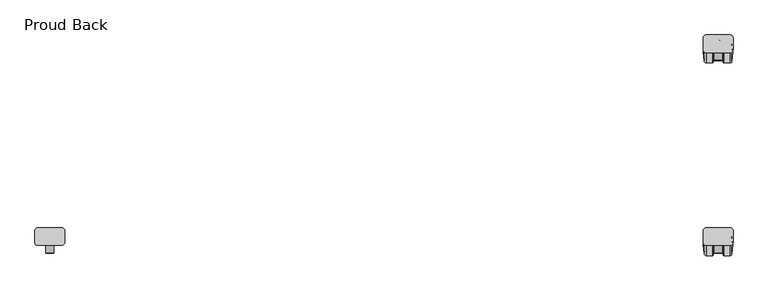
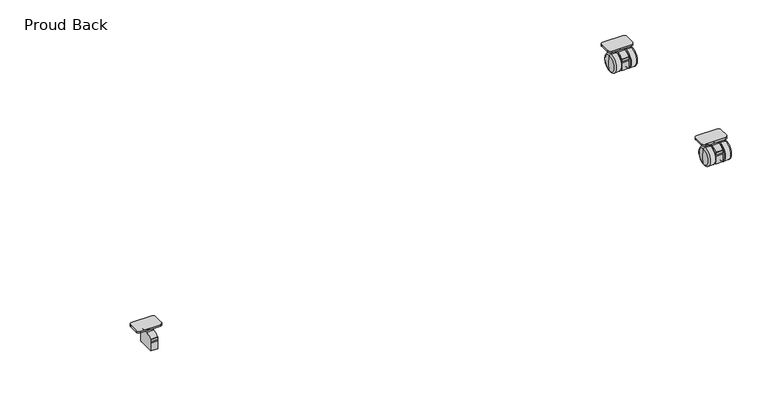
"""IFC4 building model written with IfcOpenShell, lengths in millimetres: furniture geometry, Haworth_BeHold_Modular_MobileCredenza : Proud Back."""

from ifc_helpers import new_model, si_unit, point, frame, frame_2d, origin, place, context, project, spatial, polyline, circle_curve, ellipse_curve, trimmed, segment, composite_curve, outline, extrude, source, transform, mapped, element, save
from ifc_brep_helpers import plane_surface, cylinder_surface, revolved_surface, advanced_brep


def proud_back_0982a6b6(model_context):
    return source(origin(), model_context, "Body", "SolidModel", [
        extrude(outline(composite_curve([segment(trimmed(circle_curve(frame_2d((432.996701, -437.9821808)), 5.55625), [point((432.996701, -432.4259308))], [point((438.552951, -437.9821808))], False, "CARTESIAN"), True, "CONTINUOUS"), segment(polyline([(438.552951, -437.9821808), (438.552951, -457.3264717)]), True, "CONTINUOUS"), segment(trimmed(circle_curve(frame_2d((432.9541908, -457.3264717)), 5.5987602), [point((438.552951, -457.3264717))], [point((432.9541908, -462.9252319))], False, "CARTESIAN"), True, "CONTINUOUS"), segment(polyline([(432.9541908, -462.9252319), (393.1088256, -462.9252319)]), True, "CONTINUOUS"), segment(trimmed(circle_curve(frame_2d((393.1088256, -457.3689819)), 5.55625), [point((393.1088256, -462.9252319))], [point((387.5525756, -457.3689819))], False, "CARTESIAN"), True, "CONTINUOUS"), segment(polyline([(387.5525756, -457.3689819), (387.5525756, -437.9821808)]), True, "CONTINUOUS"), segment(trimmed(circle_curve(frame_2d((393.1088256, -437.9821808)), 5.55625), [point((387.5525756, -437.9821808))], [point((393.1088256, -432.4259308))], False, "CARTESIAN"), True, "CONTINUOUS"), segment(polyline([(393.1088256, -432.4259308), (432.996701, -432.4259308)]), True, "CONTINUOUS")], self_intersect=False)), frame((0.0, 0.0, 41.1500016), z_axis=(0.0, 0.0, 1.0), x_axis=(1.0, 0.0, 0.0)), (0.0, 0.0, 1.0), 3.2999984),
        extrude(outline(composite_curve([segment(trimmed(circle_curve(frame_2d((-444.8174225, 10.0187513)), 3.96875), [point((-440.8486725, 10.0187513))], [point((-444.8174225, 6.0500013))], False, "CARTESIAN"), True, "CONTINUOUS"), segment(polyline([(-444.8174225, 6.0500013), (-476.4755676, 6.0500013), (-476.4755676, 22.3915745)]), True, "CONTINUOUS"), segment(trimmed(circle_curve(frame_2d((-435.1272413, 22.3915745)), 41.3483263), [point((-476.4755676, 22.3915745))], [point((-476.357618, 25.5124927))], False, "CARTESIAN"), True, "CONTINUOUS"), segment(polyline([(-476.357618, 25.5124927), (-476.0516605, 29.5544899)]), True, "CONTINUOUS"), segment(trimmed(circle_curve(frame_2d((-474.2358868, 29.4170456)), 1.8209681), [point((-476.0516605, 29.5544899))], [point((-475.6031667, 30.6197387))], False, "CARTESIAN"), True, "CONTINUOUS"), segment(trimmed(circle_curve(frame_2d((-461.8252991, 18.5003868)), 18.3496138), [point((-475.6031667, 30.6197387))], [point((-461.8252991, 36.8500006))], False, "CARTESIAN"), True, "CONTINUOUS"), segment(polyline([(-461.8252991, 36.8500006), (-455.7756683, 36.8500006), (-455.7756683, 32.8500017), (-440.8486725, 32.8500017), (-440.8486725, 10.0187513)]), True, "CONTINUOUS")], self_intersect=False)), frame((406.0537719, 0.0, 0.0), z_axis=(1.0, 0.0, 0.0), x_axis=(0.0, 1.0, 0.0)), (0.0, 0.0, 1.0), 13.9991455),
        advanced_brep(
        [(408.3792114, -447.675, 32.8500017), (417.727478, -447.675, 32.8500017), (413.0533447, -447.675, 32.8500017), (408.3792114, -447.675, 34.6500009), (417.727478, -447.675, 34.6500009), (406.829306, -447.675, 34.6500009), (419.2773834, -447.675, 34.6500009), (405.982846, -447.675, 38.6499997), (420.1238433, -447.675, 38.6499997), (408.5536193, -447.675, 38.6499997), (417.55307, -447.675, 38.6499997), (402.054016, -447.675, 41.1500016), (424.0526733, -447.675, 41.1500016), (413.0533447, -447.675, 41.1500016)],
        [
            (0, 1, circle_curve(frame((413.0533447, -447.675, 32.8500017), z_axis=(0.0, 0.0, -1.0), x_axis=(1.0, 0.0, 0.0)), 4.6741333)),
            (1, 2),
            (2, 0),
            (1, 0, circle_curve(frame((413.0533447, -447.675, 32.8500017), z_axis=(0.0, 0.0, -1.0), x_axis=(1.0, 0.0, 0.0)), 4.6741333)),
            (3, 4, circle_curve(frame((413.0533447, -447.675, 34.6500009), z_axis=(0.0, 0.0, -1.0), x_axis=(1.0, 0.0, 0.0)), 4.6741333)),
            (4, 1),
            (0, 3),
            (4, 3, circle_curve(frame((413.0533447, -447.675, 34.6500009), z_axis=(0.0, 0.0, -1.0), x_axis=(1.0, 0.0, 0.0)), 4.6741333)),
            (5, 6, circle_curve(frame((413.0533447, -447.675, 34.6500009), z_axis=(0.0, 0.0, -1.0), x_axis=(1.0, 0.0, 0.0)), 6.2240387)),
            (6, 4),
            (3, 5),
            (6, 5, circle_curve(frame((413.0533447, -447.675, 34.6500009), z_axis=(0.0, 0.0, -1.0), x_axis=(1.0, 0.0, 0.0)), 6.2240387)),
            (7, 8, circle_curve(frame((413.0533447, -447.675, 38.6499997), z_axis=(0.0, 0.0, -1.0), x_axis=(1.0, 0.0, 0.0)), 7.0704987)),
            (8, 6, circle_curve(frame((417.5549905, -447.675, 37.1040464), z_axis=(0.0, 1.0, 0.0), x_axis=(1.0, 0.0, 0.0)), 2.9981622)),
            (5, 7, circle_curve(frame((408.5516989, -447.675, 37.1040464), z_axis=(0.0, 1.0, 0.0), x_axis=(-1.0, 0.0, 0.0)), 2.9981622)),
            (8, 7, circle_curve(frame((413.0533447, -447.675, 38.6499997), z_axis=(0.0, 0.0, -1.0), x_axis=(1.0, 0.0, 0.0)), 7.0704987)),
            (9, 10, circle_curve(frame((413.0533447, -447.675, 38.6499997), z_axis=(0.0, 0.0, -1.0), x_axis=(1.0, 0.0, 0.0)), 4.4997253)),
            (10, 8),
            (7, 9),
            (10, 9, circle_curve(frame((413.0533447, -447.675, 38.6499997), z_axis=(0.0, 0.0, -1.0), x_axis=(1.0, 0.0, 0.0)), 4.4997253)),
            (11, 12, circle_curve(frame((413.0533447, -447.675, 41.1500016), z_axis=(0.0, 0.0, -1.0), x_axis=(1.0, 0.0, 0.0)), 10.9993286)),
            (12, 10),
            (9, 11),
            (12, 11, circle_curve(frame((413.0533447, -447.675, 41.1500016), z_axis=(0.0, 0.0, -1.0), x_axis=(1.0, 0.0, 0.0)), 10.9993286)),
            (13, 12),
            (11, 13),
        ],
        [
            plane_surface(frame((413.0533447, -447.675, 32.8500017), z_axis=(0.0, 0.0, -1.0), x_axis=(1.0, 0.0, 0.0))),
            cylinder_surface(frame((413.0533447, -447.675, 53.2629664), z_axis=(0.0, 0.0, 1.0), x_axis=(1.0, 0.0, 0.0)), 4.6741333),
            plane_surface(frame((413.0533447, -447.675, 34.6500009), z_axis=(0.0, 0.0, -1.0), x_axis=(1.0, 0.0, 0.0))),
            revolved_surface(trimmed(ellipse_curve(frame((417.5549905, -447.675, 37.1040464), z_axis=(0.0, -1.0, 0.0), x_axis=(1.0, 0.0, 0.0)), 2.9981622, 2.9981622), [point((419.2773834, -447.675, 34.6500009))], [point((420.1238433, -447.675, 38.6499997))], True, "CARTESIAN"), (413.0533447, -447.675, 53.2629664), (0.0, 0.0, 1.0)),
            plane_surface(frame((413.0533447, -447.675, 38.6499997), z_axis=(0.0, 0.0, 1.0), x_axis=(1.0, 0.0, 0.0))),
            revolved_surface(polyline([(417.55307, -447.675, 38.6499997), (424.0526733, -447.675, 41.1500016)]), (413.0533447, -447.675, 53.2629664), (0.0, 0.0, 1.0)),
            plane_surface(frame((413.0533447, -447.675, 41.1500016), z_axis=(0.0, 0.0, 1.0), x_axis=(1.0, 0.0, 0.0))),
        ],
        [
            (0, [[1, 2, 3]]),
            (0, [[4, -3, -2]]),
            (1, [[5, 6, -1, 7]]),
            (1, [[8, -7, -4, -6]]),
            (2, [[9, 10, -5, 11]]),
            (2, [[12, -11, -8, -10]]),
            (3, [[13, 14, -9, 15]]),
            (3, [[16, -15, -12, -14]]),
            (4, [[17, 18, -13, 19]]),
            (4, [[20, -19, -16, -18]]),
            (5, [[21, 22, -17, 23]]),
            (5, [[24, -23, -20, -22]]),
            (6, [[25, -21, 26]]),
            (6, [[-26, -24, -25]]),
        ],
    ),
        advanced_brep(
        [(389.4536834, -461.8252991, 2.8741812), (389.4536834, -461.8252991, 34.1258208), (387.85372, -461.8252991, 18.500001), (392.9567552, -461.8252991, 1.5e-06), (392.9567552, -461.8252991, 37.0000005), (403.1620879, -461.8252991, 1.5e-06), (403.1620879, -461.8252991, 37.0000005), (404.3527129, -461.8252991, 1.1906265), (404.3527129, -461.8252991, 35.8093755), (404.3527129, -461.8252991, 11.3500014), (404.3527129, -461.8252991, 25.6500006), (407.8524993, -461.8252991, 11.3500014), (407.8524993, -461.8252991, 25.6500006), (407.8524993, -461.8252991, 13.0457396), (407.8524993, -461.8252991, 23.9542625), (418.2530273, -461.8252991, 13.0457396), (418.2530273, -461.8252991, 23.9542625), (418.2530273, -461.8252991, 11.3500014), (418.2530273, -461.8252991, 25.6500006), (421.7528137, -461.8252991, 11.3500014), (421.7528137, -461.8252991, 25.6500006), (421.7528137, -461.8252991, 1.1906265), (421.7528137, -461.8252991, 35.8093755), (422.9434387, -461.8252991, 1.5e-06), (422.9434387, -461.8252991, 37.0000005), (433.1298304, -461.8252991, 1.5e-06), (433.1298304, -461.8252991, 37.0000005), (436.657107, -461.8252991, 2.894786), (436.657107, -461.8252991, 34.105216), (438.2529693, -461.8252991, 18.500001)],
        [
            (0, 1, circle_curve(frame((389.4536834, -461.8252991, 18.500001), z_axis=(-1.0, 0.0, 0.0), x_axis=(0.0, 0.0, 1.0)), 15.6258198)),
            (1, 2, circle_curve(frame((471.033307, -461.8252991, 17.8778751), z_axis=(0.0, -1.0, 0.0), x_axis=(-1.0, 0.0, 0.0)), 83.1819135)),
            (2, 0, circle_curve(frame((471.033307, -461.8252991, 19.1221269), z_axis=(0.0, -1.0, 0.0), x_axis=(-1.0, 0.0, 0.0)), 83.1819135)),
            (1, 0, circle_curve(frame((389.4536834, -461.8252991, 18.500001), z_axis=(-1.0, 0.0, 0.0), x_axis=(0.0, 0.0, 1.0)), 15.6258198)),
            (3, 4, circle_curve(frame((392.9567552, -461.8252991, 18.500001), z_axis=(-1.0, 0.0, 0.0), x_axis=(0.0, 0.0, 1.0)), 18.4999995)),
            (4, 1, circle_curve(frame((392.9567552, -461.8252991, 33.4281255), z_axis=(0.0, -1.0, 0.0), x_axis=(1.0, 0.0, 0.0)), 3.571875)),
            (0, 3, circle_curve(frame((392.9567552, -461.8252991, 3.5718765), z_axis=(0.0, -1.0, 0.0), x_axis=(1.0, 0.0, 0.0)), 3.571875)),
            (4, 3, circle_curve(frame((392.9567552, -461.8252991, 18.500001), z_axis=(-1.0, 0.0, 0.0), x_axis=(0.0, 0.0, 1.0)), 18.4999995)),
            (5, 6, circle_curve(frame((403.1620879, -461.8252991, 18.500001), z_axis=(-1.0, 0.0, 0.0), x_axis=(0.0, 0.0, 1.0)), 18.4999995)),
            (6, 4),
            (3, 5),
            (6, 5, circle_curve(frame((403.1620879, -461.8252991, 18.500001), z_axis=(-1.0, 0.0, 0.0), x_axis=(0.0, 0.0, 1.0)), 18.4999995)),
            (7, 8, circle_curve(frame((404.3527129, -461.8252991, 18.500001), z_axis=(-1.0, 0.0, 0.0), x_axis=(0.0, 0.0, 1.0)), 17.3093745)),
            (8, 6, circle_curve(frame((403.1620879, -461.8252991, 35.8093755), z_axis=(0.0, -1.0, 0.0), x_axis=(1.0, 0.0, 0.0)), 1.190625)),
            (5, 7, circle_curve(frame((403.1620879, -461.8252991, 1.1906265), z_axis=(0.0, -1.0, 0.0), x_axis=(1.0, 0.0, 0.0)), 1.190625)),
            (8, 7, circle_curve(frame((404.3527129, -461.8252991, 18.500001), z_axis=(-1.0, 0.0, 0.0), x_axis=(0.0, 0.0, 1.0)), 17.3093745)),
            (9, 10, circle_curve(frame((404.3527129, -461.8252991, 18.500001), z_axis=(-1.0, 0.0, 0.0), x_axis=(0.0, 0.0, 1.0)), 7.1499996)),
            (10, 8),
            (7, 9),
            (10, 9, circle_curve(frame((404.3527129, -461.8252991, 18.500001), z_axis=(-1.0, 0.0, 0.0), x_axis=(0.0, 0.0, 1.0)), 7.1499996)),
            (11, 12, circle_curve(frame((407.8524993, -461.8252991, 18.500001), z_axis=(-1.0, 0.0, 0.0), x_axis=(0.0, 0.0, 1.0)), 7.1499996)),
            (12, 10),
            (9, 11),
            (12, 11, circle_curve(frame((407.8524993, -461.8252991, 18.500001), z_axis=(-1.0, 0.0, 0.0), x_axis=(0.0, 0.0, 1.0)), 7.1499996)),
            (13, 14, circle_curve(frame((407.8524993, -461.8252991, 18.500001), z_axis=(-1.0, 0.0, 0.0), x_axis=(0.0, 0.0, 1.0)), 5.4542615)),
            (14, 12),
            (11, 13),
            (14, 13, circle_curve(frame((407.8524993, -461.8252991, 18.500001), z_axis=(-1.0, 0.0, 0.0), x_axis=(0.0, 0.0, 1.0)), 5.4542615)),
            (15, 16, circle_curve(frame((418.2530273, -461.8252991, 18.500001), z_axis=(-1.0, 0.0, 0.0), x_axis=(0.0, 0.0, 1.0)), 5.4542615)),
            (16, 14),
            (13, 15),
            (16, 15, circle_curve(frame((418.2530273, -461.8252991, 18.500001), z_axis=(-1.0, 0.0, 0.0), x_axis=(0.0, 0.0, 1.0)), 5.4542615)),
            (17, 18, circle_curve(frame((418.2530273, -461.8252991, 18.500001), z_axis=(-1.0, 0.0, 0.0), x_axis=(0.0, 0.0, 1.0)), 7.1499996)),
            (18, 16),
            (15, 17),
            (18, 17, circle_curve(frame((418.2530273, -461.8252991, 18.500001), z_axis=(-1.0, 0.0, 0.0), x_axis=(0.0, 0.0, 1.0)), 7.1499996)),
            (19, 20, circle_curve(frame((421.7528137, -461.8252991, 18.500001), z_axis=(-1.0, 0.0, 0.0), x_axis=(0.0, 0.0, 1.0)), 7.1499996)),
            (20, 18),
            (17, 19),
            (20, 19, circle_curve(frame((421.7528137, -461.8252991, 18.500001), z_axis=(-1.0, 0.0, 0.0), x_axis=(0.0, 0.0, 1.0)), 7.1499996)),
            (21, 22, circle_curve(frame((421.7528137, -461.8252991, 18.500001), z_axis=(-1.0, 0.0, 0.0), x_axis=(0.0, 0.0, 1.0)), 17.3093745)),
            (22, 20),
            (19, 21),
            (22, 21, circle_curve(frame((421.7528137, -461.8252991, 18.500001), z_axis=(-1.0, 0.0, 0.0), x_axis=(0.0, 0.0, 1.0)), 17.3093745)),
            (23, 24, circle_curve(frame((422.9434387, -461.8252991, 18.500001), z_axis=(-1.0, 0.0, 0.0), x_axis=(0.0, 0.0, 1.0)), 18.4999995)),
            (24, 22, circle_curve(frame((422.9434387, -461.8252991, 35.8093755), z_axis=(0.0, -1.0, 0.0), x_axis=(1.0, 0.0, 0.0)), 1.190625)),
            (21, 23, circle_curve(frame((422.9434387, -461.8252991, 1.1906265), z_axis=(0.0, -1.0, 0.0), x_axis=(1.0, 0.0, 0.0)), 1.190625)),
            (24, 23, circle_curve(frame((422.9434387, -461.8252991, 18.500001), z_axis=(-1.0, 0.0, 0.0), x_axis=(0.0, 0.0, 1.0)), 18.4999995)),
            (25, 26, circle_curve(frame((433.1298304, -461.8252991, 18.500001), z_axis=(-1.0, 0.0, 0.0), x_axis=(0.0, 0.0, 1.0)), 18.4999995)),
            (26, 24),
            (23, 25),
            (26, 25, circle_curve(frame((433.1298304, -461.8252991, 18.500001), z_axis=(-1.0, 0.0, 0.0), x_axis=(0.0, 0.0, 1.0)), 18.4999995)),
            (27, 28, circle_curve(frame((436.657107, -461.8252991, 18.500001), z_axis=(-1.0, 0.0, 0.0), x_axis=(0.0, 0.0, 1.0)), 15.605215)),
            (28, 26, circle_curve(frame((433.1298304, -461.8252991, 33.4036261), z_axis=(0.0, -1.0, 0.0), x_axis=(1.0, 0.0, 0.0)), 3.5963744)),
            (25, 27, circle_curve(frame((433.1298304, -461.8252991, 3.5963759), z_axis=(0.0, -1.0, 0.0), x_axis=(1.0, 0.0, 0.0)), 3.5963744)),
            (28, 27, circle_curve(frame((436.657107, -461.8252991, 18.500001), z_axis=(-1.0, 0.0, 0.0), x_axis=(0.0, 0.0, 1.0)), 15.605215)),
            (29, 28, circle_curve(frame((355.0733823, -461.8252991, 17.8778751), z_axis=(0.0, -1.0, 0.0), x_axis=(1.0, 0.0, 0.0)), 83.1819135)),
            (27, 29, circle_curve(frame((355.0733823, -461.8252991, 19.1221269), z_axis=(0.0, -1.0, 0.0), x_axis=(1.0, 0.0, 0.0)), 83.1819135)),
        ],
        [
            revolved_surface(trimmed(ellipse_curve(frame((471.033307, -461.8252991, 17.8778751), z_axis=(0.0, 1.0, 0.0), x_axis=(-1.0, 0.0, 0.0)), 83.1819135, 83.1819135), [point((387.85372, -461.8252991, 18.500001))], [point((389.4536834, -461.8252991, 34.1258208))], True, "CARTESIAN"), (364.5419293, -461.8252991, 18.500001), (1.0, 0.0, 0.0)),
            revolved_surface(trimmed(ellipse_curve(frame((392.9567552, -461.8252991, 33.4281255), z_axis=(0.0, 1.0, 0.0), x_axis=(1.0, 0.0, 0.0)), 3.571875, 3.571875), [point((389.4536834, -461.8252991, 34.1258208))], [point((392.9567552, -461.8252991, 37.0000005))], True, "CARTESIAN"), (364.5419293, -461.8252991, 18.500001), (1.0, 0.0, 0.0)),
            cylinder_surface(frame((364.5419293, -461.8252991, 18.500001), z_axis=(1.0, 0.0, 0.0), x_axis=(0.0, 0.0, 1.0)), 18.4999995),
            revolved_surface(trimmed(ellipse_curve(frame((403.1620879, -461.8252991, 35.8093755), z_axis=(0.0, 1.0, 0.0), x_axis=(1.0, 0.0, 0.0)), 1.190625, 1.190625), [point((403.1620879, -461.8252991, 37.0000005))], [point((404.3527129, -461.8252991, 35.8093755))], True, "CARTESIAN"), (364.5419293, -461.8252991, 18.500001), (1.0, 0.0, 0.0)),
            plane_surface(frame((404.3527129, -461.8252991, 18.500001), z_axis=(1.0, 0.0, 0.0), x_axis=(0.0, 0.0, 1.0))),
            cylinder_surface(frame((364.5419293, -461.8252991, 18.500001), z_axis=(1.0, 0.0, 0.0), x_axis=(0.0, 0.0, 1.0)), 7.1499996),
            plane_surface(frame((407.8524993, -461.8252991, 18.500001), z_axis=(1.0, 0.0, 0.0), x_axis=(0.0, 0.0, 1.0))),
            cylinder_surface(frame((364.5419293, -461.8252991, 18.500001), z_axis=(1.0, 0.0, 0.0), x_axis=(0.0, 0.0, 1.0)), 5.4542615),
            plane_surface(frame((418.2530273, -461.8252991, 18.500001), z_axis=(-1.0, 0.0, 0.0), x_axis=(0.0, 0.0, 1.0))),
            plane_surface(frame((421.7528137, -461.8252991, 18.500001), z_axis=(-1.0, 0.0, 0.0), x_axis=(0.0, 0.0, 1.0))),
            revolved_surface(trimmed(ellipse_curve(frame((422.9434387, -461.8252991, 35.8093755), z_axis=(0.0, 1.0, 0.0), x_axis=(1.0, 0.0, 0.0)), 1.190625, 1.190625), [point((421.7528137, -461.8252991, 35.8093755))], [point((422.9434387, -461.8252991, 37.0000005))], True, "CARTESIAN"), (364.5419293, -461.8252991, 18.500001), (1.0, 0.0, 0.0)),
            revolved_surface(trimmed(ellipse_curve(frame((433.1298304, -461.8252991, 33.4036261), z_axis=(0.0, 1.0, 0.0), x_axis=(1.0, 0.0, 0.0)), 3.5963744, 3.5963744), [point((433.1298304, -461.8252991, 37.0000005))], [point((436.657107, -461.8252991, 34.105216))], True, "CARTESIAN"), (364.5419293, -461.8252991, 18.500001), (1.0, 0.0, 0.0)),
            revolved_surface(trimmed(ellipse_curve(frame((355.0733823, -461.8252991, 17.8778751), z_axis=(0.0, 1.0, 0.0), x_axis=(1.0, 0.0, 0.0)), 83.1819135, 83.1819135), [point((436.657107, -461.8252991, 34.105216))], [point((438.2529693, -461.8252991, 18.500001))], True, "CARTESIAN"), (364.5419293, -461.8252991, 18.500001), (1.0, 0.0, 0.0)),
        ],
        [
            (0, [[1, 2, 3]]),
            (0, [[4, -3, -2]]),
            (1, [[5, 6, -1, 7]]),
            (1, [[8, -7, -4, -6]]),
            (2, [[9, 10, -5, 11]]),
            (2, [[12, -11, -8, -10]]),
            (3, [[13, 14, -9, 15]]),
            (3, [[16, -15, -12, -14]]),
            (4, [[17, 18, -13, 19]]),
            (4, [[20, -19, -16, -18]]),
            (5, [[21, 22, -17, 23]]),
            (5, [[24, -23, -20, -22]]),
            (6, [[25, 26, -21, 27]]),
            (6, [[28, -27, -24, -26]]),
            (7, [[29, 30, -25, 31]]),
            (7, [[32, -31, -28, -30]]),
            (8, [[33, 34, -29, 35]]),
            (8, [[36, -35, -32, -34]]),
            (5, [[37, 38, -33, 39]]),
            (5, [[40, -39, -36, -38]]),
            (9, [[41, 42, -37, 43]]),
            (9, [[44, -43, -40, -42]]),
            (10, [[45, 46, -41, 47]]),
            (10, [[48, -47, -44, -46]]),
            (2, [[49, 50, -45, 51]]),
            (2, [[52, -51, -48, -50]]),
            (11, [[53, 54, -49, 55]]),
            (11, [[56, -55, -52, -54]]),
            (12, [[57, -53, 58]]),
            (12, [[-58, -56, -57]]),
        ],
    ),
        extrude(outline(composite_curve([segment(trimmed(circle_curve(frame_2d((432.996701, -109.3696808)), 5.55625), [point((432.996701, -103.8134308))], [point((438.552951, -109.3696808))], False, "CARTESIAN"), True, "CONTINUOUS"), segment(polyline([(438.552951, -109.3696808), (438.552951, -128.7139717)]), True, "CONTINUOUS"), segment(trimmed(circle_curve(frame_2d((432.9541908, -128.7139717)), 5.5987602), [point((438.552951, -128.7139717))], [point((432.9541908, -134.3127319))], False, "CARTESIAN"), True, "CONTINUOUS"), segment(polyline([(432.9541908, -134.3127319), (393.1088256, -134.3127319)]), True, "CONTINUOUS"), segment(trimmed(circle_curve(frame_2d((393.1088256, -128.7564819)), 5.55625), [point((393.1088256, -134.3127319))], [point((387.5525756, -128.7564819))], False, "CARTESIAN"), True, "CONTINUOUS"), segment(polyline([(387.5525756, -128.7564819), (387.5525756, -109.3696808)]), True, "CONTINUOUS"), segment(trimmed(circle_curve(frame_2d((393.1088256, -109.3696808)), 5.55625), [point((387.5525756, -109.3696808))], [point((393.1088256, -103.8134308))], False, "CARTESIAN"), True, "CONTINUOUS"), segment(polyline([(393.1088256, -103.8134308), (432.996701, -103.8134308)]), True, "CONTINUOUS")], self_intersect=False)), frame((0.0, 0.0, 41.1500016), z_axis=(0.0, 0.0, 1.0), x_axis=(1.0, 0.0, 0.0)), (0.0, 0.0, 1.0), 3.2999984),
        extrude(outline(composite_curve([segment(trimmed(circle_curve(frame_2d((-116.2049225, 10.0187513)), 3.96875), [point((-112.2361725, 10.0187513))], [point((-116.2049225, 6.0500013))], False, "CARTESIAN"), True, "CONTINUOUS"), segment(polyline([(-116.2049225, 6.0500013), (-147.8630676, 6.0500013), (-147.8630676, 22.3915745)]), True, "CONTINUOUS"), segment(trimmed(circle_curve(frame_2d((-106.5147413, 22.3915745)), 41.3483263), [point((-147.8630676, 22.3915745))], [point((-147.745118, 25.5124927))], False, "CARTESIAN"), True, "CONTINUOUS"), segment(polyline([(-147.745118, 25.5124927), (-147.4391605, 29.5544899)]), True, "CONTINUOUS"), segment(trimmed(circle_curve(frame_2d((-145.6233868, 29.4170456)), 1.8209681), [point((-147.4391605, 29.5544899))], [point((-146.9906667, 30.6197387))], False, "CARTESIAN"), True, "CONTINUOUS"), segment(trimmed(circle_curve(frame_2d((-133.2127991, 18.5003868)), 18.3496138), [point((-146.9906667, 30.6197387))], [point((-133.2127991, 36.8500006))], False, "CARTESIAN"), True, "CONTINUOUS"), segment(polyline([(-133.2127991, 36.8500006), (-127.1631683, 36.8500006), (-127.1631683, 32.8500017), (-112.2361725, 32.8500017), (-112.2361725, 10.0187513)]), True, "CONTINUOUS")], self_intersect=False)), frame((406.0537719, 0.0, 0.0), z_axis=(1.0, 0.0, 0.0), x_axis=(0.0, 1.0, 0.0)), (0.0, 0.0, 1.0), 13.9991455),
        advanced_brep(
        [(408.3792114, -119.0625, 32.8500017), (417.727478, -119.0625, 32.8500017), (413.0533447, -119.0625, 32.8500017), (408.3792114, -119.0625, 34.6500009), (417.727478, -119.0625, 34.6500009), (406.829306, -119.0625, 34.6500009), (419.2773834, -119.0625, 34.6500009), (405.982846, -119.0625, 38.6499997), (420.1238433, -119.0625, 38.6499997), (408.5536193, -119.0625, 38.6499997), (417.55307, -119.0625, 38.6499997), (402.054016, -119.0625, 41.1500016), (424.0526733, -119.0625, 41.1500016), (413.0533447, -119.0625, 41.1500016)],
        [
            (0, 1, circle_curve(frame((413.0533447, -119.0625, 32.8500017), z_axis=(0.0, 0.0, -1.0), x_axis=(1.0, 0.0, 0.0)), 4.6741333)),
            (1, 2),
            (2, 0),
            (1, 0, circle_curve(frame((413.0533447, -119.0625, 32.8500017), z_axis=(0.0, 0.0, -1.0), x_axis=(1.0, 0.0, 0.0)), 4.6741333)),
            (3, 4, circle_curve(frame((413.0533447, -119.0625, 34.6500009), z_axis=(0.0, 0.0, -1.0), x_axis=(1.0, 0.0, 0.0)), 4.6741333)),
            (4, 1),
            (0, 3),
            (4, 3, circle_curve(frame((413.0533447, -119.0625, 34.6500009), z_axis=(0.0, 0.0, -1.0), x_axis=(1.0, 0.0, 0.0)), 4.6741333)),
            (5, 6, circle_curve(frame((413.0533447, -119.0625, 34.6500009), z_axis=(0.0, 0.0, -1.0), x_axis=(1.0, 0.0, 0.0)), 6.2240387)),
            (6, 4),
            (3, 5),
            (6, 5, circle_curve(frame((413.0533447, -119.0625, 34.6500009), z_axis=(0.0, 0.0, -1.0), x_axis=(1.0, 0.0, 0.0)), 6.2240387)),
            (7, 8, circle_curve(frame((413.0533447, -119.0625, 38.6499997), z_axis=(0.0, 0.0, -1.0), x_axis=(1.0, 0.0, 0.0)), 7.0704987)),
            (8, 6, circle_curve(frame((417.5549905, -119.0625, 37.1040464), z_axis=(0.0, 1.0, 0.0), x_axis=(1.0, 0.0, 0.0)), 2.9981622)),
            (5, 7, circle_curve(frame((408.5516989, -119.0625, 37.1040464), z_axis=(0.0, 1.0, 0.0), x_axis=(-1.0, 0.0, 0.0)), 2.9981622)),
            (8, 7, circle_curve(frame((413.0533447, -119.0625, 38.6499997), z_axis=(0.0, 0.0, -1.0), x_axis=(1.0, 0.0, 0.0)), 7.0704987)),
            (9, 10, circle_curve(frame((413.0533447, -119.0625, 38.6499997), z_axis=(0.0, 0.0, -1.0), x_axis=(1.0, 0.0, 0.0)), 4.4997253)),
            (10, 8),
            (7, 9),
            (10, 9, circle_curve(frame((413.0533447, -119.0625, 38.6499997), z_axis=(0.0, 0.0, -1.0), x_axis=(1.0, 0.0, 0.0)), 4.4997253)),
            (11, 12, circle_curve(frame((413.0533447, -119.0625, 41.1500016), z_axis=(0.0, 0.0, -1.0), x_axis=(1.0, 0.0, 0.0)), 10.9993286)),
            (12, 10),
            (9, 11),
            (12, 11, circle_curve(frame((413.0533447, -119.0625, 41.1500016), z_axis=(0.0, 0.0, -1.0), x_axis=(1.0, 0.0, 0.0)), 10.9993286)),
            (13, 12),
            (11, 13),
        ],
        [
            plane_surface(frame((413.0533447, -119.0625, 32.8500017), z_axis=(0.0, 0.0, -1.0), x_axis=(1.0, 0.0, 0.0))),
            cylinder_surface(frame((413.0533447, -119.0625, 53.2629664), z_axis=(0.0, 0.0, 1.0), x_axis=(1.0, 0.0, 0.0)), 4.6741333),
            plane_surface(frame((413.0533447, -119.0625, 34.6500009), z_axis=(0.0, 0.0, -1.0), x_axis=(1.0, 0.0, 0.0))),
            revolved_surface(trimmed(ellipse_curve(frame((417.5549905, -119.0625, 37.1040464), z_axis=(0.0, -1.0, 0.0), x_axis=(1.0, 0.0, 0.0)), 2.9981622, 2.9981622), [point((419.2773834, -119.0625, 34.6500009))], [point((420.1238433, -119.0625, 38.6499997))], True, "CARTESIAN"), (413.0533447, -119.0625, 53.2629664), (0.0, 0.0, 1.0)),
            plane_surface(frame((413.0533447, -119.0625, 38.6499997), z_axis=(0.0, 0.0, 1.0), x_axis=(1.0, 0.0, 0.0))),
            revolved_surface(polyline([(417.55307, -119.0625, 38.6499997), (424.0526733, -119.0625, 41.1500016)]), (413.0533447, -119.0625, 53.2629664), (0.0, 0.0, 1.0)),
            plane_surface(frame((413.0533447, -119.0625, 41.1500016), z_axis=(0.0, 0.0, 1.0), x_axis=(1.0, 0.0, 0.0))),
        ],
        [
            (0, [[1, 2, 3]]),
            (0, [[4, -3, -2]]),
            (1, [[5, 6, -1, 7]]),
            (1, [[8, -7, -4, -6]]),
            (2, [[9, 10, -5, 11]]),
            (2, [[12, -11, -8, -10]]),
            (3, [[13, 14, -9, 15]]),
            (3, [[16, -15, -12, -14]]),
            (4, [[17, 18, -13, 19]]),
            (4, [[20, -19, -16, -18]]),
            (5, [[21, 22, -17, 23]]),
            (5, [[24, -23, -20, -22]]),
            (6, [[25, -21, 26]]),
            (6, [[-26, -24, -25]]),
        ],
    ),
        advanced_brep(
        [(389.4536834, -133.2127991, 2.8741812), (389.4536834, -133.2127991, 34.1258208), (387.85372, -133.2127991, 18.500001), (392.9567552, -133.2127991, 1.5e-06), (392.9567552, -133.2127991, 37.0000005), (403.1620879, -133.2127991, 1.5e-06), (403.1620879, -133.2127991, 37.0000005), (404.3527129, -133.2127991, 1.1906265), (404.3527129, -133.2127991, 35.8093755), (404.3527129, -133.2127991, 11.3500014), (404.3527129, -133.2127991, 25.6500006), (407.8524993, -133.2127991, 11.3500014), (407.8524993, -133.2127991, 25.6500006), (407.8524993, -133.2127991, 13.0457396), (407.8524993, -133.2127991, 23.9542625), (418.2530273, -133.2127991, 13.0457396), (418.2530273, -133.2127991, 23.9542625), (418.2530273, -133.2127991, 11.3500014), (418.2530273, -133.2127991, 25.6500006), (421.7528137, -133.2127991, 11.3500014), (421.7528137, -133.2127991, 25.6500006), (421.7528137, -133.2127991, 1.1906265), (421.7528137, -133.2127991, 35.8093755), (422.9434387, -133.2127991, 1.5e-06), (422.9434387, -133.2127991, 37.0000005), (433.1298304, -133.2127991, 1.5e-06), (433.1298304, -133.2127991, 37.0000005), (436.657107, -133.2127991, 2.894786), (436.657107, -133.2127991, 34.105216), (438.2529693, -133.2127991, 18.500001)],
        [
            (0, 1, circle_curve(frame((389.4536834, -133.2127991, 18.500001), z_axis=(-1.0, 0.0, 0.0), x_axis=(0.0, 0.0, 1.0)), 15.6258198)),
            (1, 2, circle_curve(frame((471.033307, -133.2127991, 17.8778751), z_axis=(0.0, -1.0, 0.0), x_axis=(-1.0, 0.0, 0.0)), 83.1819135)),
            (2, 0, circle_curve(frame((471.033307, -133.2127991, 19.1221269), z_axis=(0.0, -1.0, 0.0), x_axis=(-1.0, 0.0, 0.0)), 83.1819135)),
            (1, 0, circle_curve(frame((389.4536834, -133.2127991, 18.500001), z_axis=(-1.0, 0.0, 0.0), x_axis=(0.0, 0.0, 1.0)), 15.6258198)),
            (3, 4, circle_curve(frame((392.9567552, -133.2127991, 18.500001), z_axis=(-1.0, 0.0, 0.0), x_axis=(0.0, 0.0, 1.0)), 18.4999995)),
            (4, 1, circle_curve(frame((392.9567552, -133.2127991, 33.4281255), z_axis=(0.0, -1.0, 0.0), x_axis=(1.0, 0.0, 0.0)), 3.571875)),
            (0, 3, circle_curve(frame((392.9567552, -133.2127991, 3.5718765), z_axis=(0.0, -1.0, 0.0), x_axis=(1.0, 0.0, 0.0)), 3.571875)),
            (4, 3, circle_curve(frame((392.9567552, -133.2127991, 18.500001), z_axis=(-1.0, 0.0, 0.0), x_axis=(0.0, 0.0, 1.0)), 18.4999995)),
            (5, 6, circle_curve(frame((403.1620879, -133.2127991, 18.500001), z_axis=(-1.0, 0.0, 0.0), x_axis=(0.0, 0.0, 1.0)), 18.4999995)),
            (6, 4),
            (3, 5),
            (6, 5, circle_curve(frame((403.1620879, -133.2127991, 18.500001), z_axis=(-1.0, 0.0, 0.0), x_axis=(0.0, 0.0, 1.0)), 18.4999995)),
            (7, 8, circle_curve(frame((404.3527129, -133.2127991, 18.500001), z_axis=(-1.0, 0.0, 0.0), x_axis=(0.0, 0.0, 1.0)), 17.3093745)),
            (8, 6, circle_curve(frame((403.1620879, -133.2127991, 35.8093755), z_axis=(0.0, -1.0, 0.0), x_axis=(1.0, 0.0, 0.0)), 1.190625)),
            (5, 7, circle_curve(frame((403.1620879, -133.2127991, 1.1906265), z_axis=(0.0, -1.0, 0.0), x_axis=(1.0, 0.0, 0.0)), 1.190625)),
            (8, 7, circle_curve(frame((404.3527129, -133.2127991, 18.500001), z_axis=(-1.0, 0.0, 0.0), x_axis=(0.0, 0.0, 1.0)), 17.3093745)),
            (9, 10, circle_curve(frame((404.3527129, -133.2127991, 18.500001), z_axis=(-1.0, 0.0, 0.0), x_axis=(0.0, 0.0, 1.0)), 7.1499996)),
            (10, 8),
            (7, 9),
            (10, 9, circle_curve(frame((404.3527129, -133.2127991, 18.500001), z_axis=(-1.0, 0.0, 0.0), x_axis=(0.0, 0.0, 1.0)), 7.1499996)),
            (11, 12, circle_curve(frame((407.8524993, -133.2127991, 18.500001), z_axis=(-1.0, 0.0, 0.0), x_axis=(0.0, 0.0, 1.0)), 7.1499996)),
            (12, 10),
            (9, 11),
            (12, 11, circle_curve(frame((407.8524993, -133.2127991, 18.500001), z_axis=(-1.0, 0.0, 0.0), x_axis=(0.0, 0.0, 1.0)), 7.1499996)),
            (13, 14, circle_curve(frame((407.8524993, -133.2127991, 18.500001), z_axis=(-1.0, 0.0, 0.0), x_axis=(0.0, 0.0, 1.0)), 5.4542615)),
            (14, 12),
            (11, 13),
            (14, 13, circle_curve(frame((407.8524993, -133.2127991, 18.500001), z_axis=(-1.0, 0.0, 0.0), x_axis=(0.0, 0.0, 1.0)), 5.4542615)),
            (15, 16, circle_curve(frame((418.2530273, -133.2127991, 18.500001), z_axis=(-1.0, 0.0, 0.0), x_axis=(0.0, 0.0, 1.0)), 5.4542615)),
            (16, 14),
            (13, 15),
            (16, 15, circle_curve(frame((418.2530273, -133.2127991, 18.500001), z_axis=(-1.0, 0.0, 0.0), x_axis=(0.0, 0.0, 1.0)), 5.4542615)),
            (17, 18, circle_curve(frame((418.2530273, -133.2127991, 18.500001), z_axis=(-1.0, 0.0, 0.0), x_axis=(0.0, 0.0, 1.0)), 7.1499996)),
            (18, 16),
            (15, 17),
            (18, 17, circle_curve(frame((418.2530273, -133.2127991, 18.500001), z_axis=(-1.0, 0.0, 0.0), x_axis=(0.0, 0.0, 1.0)), 7.1499996)),
            (19, 20, circle_curve(frame((421.7528137, -133.2127991, 18.500001), z_axis=(-1.0, 0.0, 0.0), x_axis=(0.0, 0.0, 1.0)), 7.1499996)),
            (20, 18),
            (17, 19),
            (20, 19, circle_curve(frame((421.7528137, -133.2127991, 18.500001), z_axis=(-1.0, 0.0, 0.0), x_axis=(0.0, 0.0, 1.0)), 7.1499996)),
            (21, 22, circle_curve(frame((421.7528137, -133.2127991, 18.500001), z_axis=(-1.0, 0.0, 0.0), x_axis=(0.0, 0.0, 1.0)), 17.3093745)),
            (22, 20),
            (19, 21),
            (22, 21, circle_curve(frame((421.7528137, -133.2127991, 18.500001), z_axis=(-1.0, 0.0, 0.0), x_axis=(0.0, 0.0, 1.0)), 17.3093745)),
            (23, 24, circle_curve(frame((422.9434387, -133.2127991, 18.500001), z_axis=(-1.0, 0.0, 0.0), x_axis=(0.0, 0.0, 1.0)), 18.4999995)),
            (24, 22, circle_curve(frame((422.9434387, -133.2127991, 35.8093755), z_axis=(0.0, -1.0, 0.0), x_axis=(1.0, 0.0, 0.0)), 1.190625)),
            (21, 23, circle_curve(frame((422.9434387, -133.2127991, 1.1906265), z_axis=(0.0, -1.0, 0.0), x_axis=(1.0, 0.0, 0.0)), 1.190625)),
            (24, 23, circle_curve(frame((422.9434387, -133.2127991, 18.500001), z_axis=(-1.0, 0.0, 0.0), x_axis=(0.0, 0.0, 1.0)), 18.4999995)),
            (25, 26, circle_curve(frame((433.1298304, -133.2127991, 18.500001), z_axis=(-1.0, 0.0, 0.0), x_axis=(0.0, 0.0, 1.0)), 18.4999995)),
            (26, 24),
            (23, 25),
            (26, 25, circle_curve(frame((433.1298304, -133.2127991, 18.500001), z_axis=(-1.0, 0.0, 0.0), x_axis=(0.0, 0.0, 1.0)), 18.4999995)),
            (27, 28, circle_curve(frame((436.657107, -133.2127991, 18.500001), z_axis=(-1.0, 0.0, 0.0), x_axis=(0.0, 0.0, 1.0)), 15.605215)),
            (28, 26, circle_curve(frame((433.1298304, -133.2127991, 33.4036261), z_axis=(0.0, -1.0, 0.0), x_axis=(1.0, 0.0, 0.0)), 3.5963744)),
            (25, 27, circle_curve(frame((433.1298304, -133.2127991, 3.5963759), z_axis=(0.0, -1.0, 0.0), x_axis=(1.0, 0.0, 0.0)), 3.5963744)),
            (28, 27, circle_curve(frame((436.657107, -133.2127991, 18.500001), z_axis=(-1.0, 0.0, 0.0), x_axis=(0.0, 0.0, 1.0)), 15.605215)),
            (29, 28, circle_curve(frame((355.0733823, -133.2127991, 17.8778751), z_axis=(0.0, -1.0, 0.0), x_axis=(1.0, 0.0, 0.0)), 83.1819135)),
            (27, 29, circle_curve(frame((355.0733823, -133.2127991, 19.1221269), z_axis=(0.0, -1.0, 0.0), x_axis=(1.0, 0.0, 0.0)), 83.1819135)),
        ],
        [
            revolved_surface(trimmed(ellipse_curve(frame((471.033307, -133.2127991, 17.8778751), z_axis=(0.0, 1.0, 0.0), x_axis=(-1.0, 0.0, 0.0)), 83.1819135, 83.1819135), [point((387.85372, -133.2127991, 18.500001))], [point((389.4536834, -133.2127991, 34.1258208))], True, "CARTESIAN"), (364.5419293, -133.2127991, 18.500001), (1.0, 0.0, 0.0)),
            revolved_surface(trimmed(ellipse_curve(frame((392.9567552, -133.2127991, 33.4281255), z_axis=(0.0, 1.0, 0.0), x_axis=(1.0, 0.0, 0.0)), 3.571875, 3.571875), [point((389.4536834, -133.2127991, 34.1258208))], [point((392.9567552, -133.2127991, 37.0000005))], True, "CARTESIAN"), (364.5419293, -133.2127991, 18.500001), (1.0, 0.0, 0.0)),
            cylinder_surface(frame((364.5419293, -133.2127991, 18.500001), z_axis=(1.0, 0.0, 0.0), x_axis=(0.0, 0.0, 1.0)), 18.4999995),
            revolved_surface(trimmed(ellipse_curve(frame((403.1620879, -133.2127991, 35.8093755), z_axis=(0.0, 1.0, 0.0), x_axis=(1.0, 0.0, 0.0)), 1.190625, 1.190625), [point((403.1620879, -133.2127991, 37.0000005))], [point((404.3527129, -133.2127991, 35.8093755))], True, "CARTESIAN"), (364.5419293, -133.2127991, 18.500001), (1.0, 0.0, 0.0)),
            plane_surface(frame((404.3527129, -133.2127991, 18.500001), z_axis=(1.0, 0.0, 0.0), x_axis=(0.0, 0.0, 1.0))),
            cylinder_surface(frame((364.5419293, -133.2127991, 18.500001), z_axis=(1.0, 0.0, 0.0), x_axis=(0.0, 0.0, 1.0)), 7.1499996),
            plane_surface(frame((407.8524993, -133.2127991, 18.500001), z_axis=(1.0, 0.0, 0.0), x_axis=(0.0, 0.0, 1.0))),
            cylinder_surface(frame((364.5419293, -133.2127991, 18.500001), z_axis=(1.0, 0.0, 0.0), x_axis=(0.0, 0.0, 1.0)), 5.4542615),
            plane_surface(frame((418.2530273, -133.2127991, 18.500001), z_axis=(-1.0, 0.0, 0.0), x_axis=(0.0, 0.0, 1.0))),
            plane_surface(frame((421.7528137, -133.2127991, 18.500001), z_axis=(-1.0, 0.0, 0.0), x_axis=(0.0, 0.0, 1.0))),
            revolved_surface(trimmed(ellipse_curve(frame((422.9434387, -133.2127991, 35.8093755), z_axis=(0.0, 1.0, 0.0), x_axis=(1.0, 0.0, 0.0)), 1.190625, 1.190625), [point((421.7528137, -133.2127991, 35.8093755))], [point((422.9434387, -133.2127991, 37.0000005))], True, "CARTESIAN"), (364.5419293, -133.2127991, 18.500001), (1.0, 0.0, 0.0)),
            revolved_surface(trimmed(ellipse_curve(frame((433.1298304, -133.2127991, 33.4036261), z_axis=(0.0, 1.0, 0.0), x_axis=(1.0, 0.0, 0.0)), 3.5963744, 3.5963744), [point((433.1298304, -133.2127991, 37.0000005))], [point((436.657107, -133.2127991, 34.105216))], True, "CARTESIAN"), (364.5419293, -133.2127991, 18.500001), (1.0, 0.0, 0.0)),
            revolved_surface(trimmed(ellipse_curve(frame((355.0733823, -133.2127991, 17.8778751), z_axis=(0.0, 1.0, 0.0), x_axis=(1.0, 0.0, 0.0)), 83.1819135, 83.1819135), [point((436.657107, -133.2127991, 34.105216))], [point((438.2529693, -133.2127991, 18.500001))], True, "CARTESIAN"), (364.5419293, -133.2127991, 18.500001), (1.0, 0.0, 0.0)),
        ],
        [
            (0, [[1, 2, 3]]),
            (0, [[4, -3, -2]]),
            (1, [[5, 6, -1, 7]]),
            (1, [[8, -7, -4, -6]]),
            (2, [[9, 10, -5, 11]]),
            (2, [[12, -11, -8, -10]]),
            (3, [[13, 14, -9, 15]]),
            (3, [[16, -15, -12, -14]]),
            (4, [[17, 18, -13, 19]]),
            (4, [[20, -19, -16, -18]]),
            (5, [[21, 22, -17, 23]]),
            (5, [[24, -23, -20, -22]]),
            (6, [[25, 26, -21, 27]]),
            (6, [[28, -27, -24, -26]]),
            (7, [[29, 30, -25, 31]]),
            (7, [[32, -31, -28, -30]]),
            (8, [[33, 34, -29, 35]]),
            (8, [[36, -35, -32, -34]]),
            (5, [[37, 38, -33, 39]]),
            (5, [[40, -39, -36, -38]]),
            (9, [[41, 42, -37, 43]]),
            (9, [[44, -43, -40, -42]]),
            (10, [[45, 46, -41, 47]]),
            (10, [[48, -47, -44, -46]]),
            (2, [[49, 50, -45, 51]]),
            (2, [[52, -51, -48, -50]]),
            (11, [[53, 54, -49, 55]]),
            (11, [[56, -55, -52, -54]]),
            (12, [[57, -53, 58]]),
            (12, [[-58, -56, -57]]),
        ],
    ),
        extrude(outline(composite_curve([segment(trimmed(circle_curve(frame_2d((-706.828299, -437.9821808)), 5.55625), [point((-706.828299, -432.4259308))], [point((-701.272049, -437.9821808))], False, "CARTESIAN"), True, "CONTINUOUS"), segment(polyline([(-701.272049, -437.9821808), (-701.272049, -457.3264717)]), True, "CONTINUOUS"), segment(trimmed(circle_curve(frame_2d((-706.8708092, -457.3264717)), 5.5987602), [point((-701.272049, -457.3264717))], [point((-706.8708092, -462.9252319))], False, "CARTESIAN"), True, "CONTINUOUS"), segment(polyline([(-706.8708092, -462.9252319), (-746.7161744, -462.9252319)]), True, "CONTINUOUS"), segment(trimmed(circle_curve(frame_2d((-746.7161744, -457.3689819)), 5.55625), [point((-746.7161744, -462.9252319))], [point((-752.2724244, -457.3689819))], False, "CARTESIAN"), True, "CONTINUOUS"), segment(polyline([(-752.2724244, -457.3689819), (-752.2724244, -437.9821808)]), True, "CONTINUOUS"), segment(trimmed(circle_curve(frame_2d((-746.7161744, -437.9821808)), 5.55625), [point((-752.2724244, -437.9821808))], [point((-746.7161744, -432.4259308))], False, "CARTESIAN"), True, "CONTINUOUS"), segment(polyline([(-746.7161744, -432.4259308), (-706.828299, -432.4259308)]), True, "CONTINUOUS")], self_intersect=False)), frame((0.0, 0.0, 41.1500016), z_axis=(0.0, 0.0, 1.0), x_axis=(1.0, 0.0, 0.0)), (0.0, 0.0, 1.0), 3.2999984),
        extrude(outline(composite_curve([segment(trimmed(circle_curve(frame_2d((-444.8174225, 10.0187513)), 3.96875), [point((-440.8486725, 10.0187513))], [point((-444.8174225, 6.0500013))], False, "CARTESIAN"), True, "CONTINUOUS"), segment(polyline([(-444.8174225, 6.0500013), (-476.4755676, 6.0500013), (-476.4755676, 22.3915745)]), True, "CONTINUOUS"), segment(trimmed(circle_curve(frame_2d((-435.1272413, 22.3915745)), 41.3483263), [point((-476.4755676, 22.3915745))], [point((-476.357618, 25.5124927))], False, "CARTESIAN"), True, "CONTINUOUS"), segment(polyline([(-476.357618, 25.5124927), (-476.0516605, 29.5544899)]), True, "CONTINUOUS"), segment(trimmed(circle_curve(frame_2d((-474.2358868, 29.4170456)), 1.8209681), [point((-476.0516605, 29.5544899))], [point((-475.6031667, 30.6197387))], False, "CARTESIAN"), True, "CONTINUOUS"), segment(trimmed(circle_curve(frame_2d((-461.8252991, 18.5003868)), 18.3496138), [point((-475.6031667, 30.6197387))], [point((-461.8252991, 36.8500006))], False, "CARTESIAN"), True, "CONTINUOUS"), segment(polyline([(-461.8252991, 36.8500006), (-455.7756683, 36.8500006), (-455.7756683, 32.8500017), (-440.8486725, 32.8500017), (-440.8486725, 10.0187513)]), True, "CONTINUOUS")], self_intersect=False)), frame((-733.7712281, 0.0, 0.0), z_axis=(1.0, 0.0, 0.0), x_axis=(0.0, 1.0, 0.0)), (0.0, 0.0, 1.0), 13.9991455),
        advanced_brep(
        [(-731.4457886, -447.675, 32.8500017), (-722.097522, -447.675, 32.8500017), (-726.7716553, -447.675, 32.8500017), (-731.4457886, -447.675, 34.6500009), (-722.097522, -447.675, 34.6500009), (-732.995694, -447.675, 34.6500009), (-720.5476166, -447.675, 34.6500009), (-733.842154, -447.675, 38.6499997), (-719.7011567, -447.675, 38.6499997), (-731.2713807, -447.675, 38.6499997), (-722.27193, -447.675, 38.6499997), (-737.770984, -447.675, 41.1500016), (-715.7723267, -447.675, 41.1500016), (-726.7716553, -447.675, 41.1500016)],
        [
            (0, 1, circle_curve(frame((-726.7716553, -447.675, 32.8500017), z_axis=(0.0, 0.0, -1.0), x_axis=(1.0, 0.0, 0.0)), 4.6741333)),
            (1, 2),
            (2, 0),
            (1, 0, circle_curve(frame((-726.7716553, -447.675, 32.8500017), z_axis=(0.0, 0.0, -1.0), x_axis=(1.0, 0.0, 0.0)), 4.6741333)),
            (3, 4, circle_curve(frame((-726.7716553, -447.675, 34.6500009), z_axis=(0.0, 0.0, -1.0), x_axis=(1.0, 0.0, 0.0)), 4.6741333)),
            (4, 1),
            (0, 3),
            (4, 3, circle_curve(frame((-726.7716553, -447.675, 34.6500009), z_axis=(0.0, 0.0, -1.0), x_axis=(1.0, 0.0, 0.0)), 4.6741333)),
            (5, 6, circle_curve(frame((-726.7716553, -447.675, 34.6500009), z_axis=(0.0, 0.0, -1.0), x_axis=(1.0, 0.0, 0.0)), 6.2240387)),
            (6, 4),
            (3, 5),
            (6, 5, circle_curve(frame((-726.7716553, -447.675, 34.6500009), z_axis=(0.0, 0.0, -1.0), x_axis=(1.0, 0.0, 0.0)), 6.2240387)),
            (7, 8, circle_curve(frame((-726.7716553, -447.675, 38.6499997), z_axis=(0.0, 0.0, -1.0), x_axis=(1.0, 0.0, 0.0)), 7.0704987)),
            (8, 6, circle_curve(frame((-722.2700095, -447.675, 37.1040464), z_axis=(0.0, 1.0, 0.0), x_axis=(1.0, 0.0, 0.0)), 2.9981622)),
            (5, 7, circle_curve(frame((-731.2733011, -447.675, 37.1040464), z_axis=(0.0, 1.0, 0.0), x_axis=(-1.0, 0.0, 0.0)), 2.9981622)),
            (8, 7, circle_curve(frame((-726.7716553, -447.675, 38.6499997), z_axis=(0.0, 0.0, -1.0), x_axis=(1.0, 0.0, 0.0)), 7.0704987)),
            (9, 10, circle_curve(frame((-726.7716553, -447.675, 38.6499997), z_axis=(0.0, 0.0, -1.0), x_axis=(1.0, 0.0, 0.0)), 4.4997253)),
            (10, 8),
            (7, 9),
            (10, 9, circle_curve(frame((-726.7716553, -447.675, 38.6499997), z_axis=(0.0, 0.0, -1.0), x_axis=(1.0, 0.0, 0.0)), 4.4997253)),
            (11, 12, circle_curve(frame((-726.7716553, -447.675, 41.1500016), z_axis=(0.0, 0.0, -1.0), x_axis=(1.0, 0.0, 0.0)), 10.9993286)),
            (12, 10),
            (9, 11),
            (12, 11, circle_curve(frame((-726.7716553, -447.675, 41.1500016), z_axis=(0.0, 0.0, -1.0), x_axis=(1.0, 0.0, 0.0)), 10.9993286)),
            (13, 12),
            (11, 13),
        ],
        [
            plane_surface(frame((-726.7716553, -447.675, 32.8500017), z_axis=(0.0, 0.0, -1.0), x_axis=(1.0, 0.0, 0.0))),
            cylinder_surface(frame((-726.7716553, -447.675, 53.2629664), z_axis=(0.0, 0.0, 1.0), x_axis=(1.0, 0.0, 0.0)), 4.6741333),
            plane_surface(frame((-726.7716553, -447.675, 34.6500009), z_axis=(0.0, 0.0, -1.0), x_axis=(1.0, 0.0, 0.0))),
            revolved_surface(trimmed(ellipse_curve(frame((-722.2700095, -447.675, 37.1040464), z_axis=(0.0, -1.0, 0.0), x_axis=(1.0, 0.0, 0.0)), 2.9981622, 2.9981622), [point((-720.5476166, -447.675, 34.6500009))], [point((-719.7011567, -447.675, 38.6499997))], True, "CARTESIAN"), (-726.7716553, -447.675, 53.2629664), (0.0, 0.0, 1.0)),
            plane_surface(frame((-726.7716553, -447.675, 38.6499997), z_axis=(0.0, 0.0, 1.0), x_axis=(1.0, 0.0, 0.0))),
            revolved_surface(polyline([(-722.27193, -447.675, 38.6499997), (-715.7723267, -447.675, 41.1500016)]), (-726.7716553, -447.675, 53.2629664), (0.0, 0.0, 1.0)),
            plane_surface(frame((-726.7716553, -447.675, 41.1500016), z_axis=(0.0, 0.0, 1.0), x_axis=(1.0, 0.0, 0.0))),
        ],
        [
            (0, [[1, 2, 3]]),
            (0, [[4, -3, -2]]),
            (1, [[5, 6, -1, 7]]),
            (1, [[8, -7, -4, -6]]),
            (2, [[9, 10, -5, 11]]),
            (2, [[12, -11, -8, -10]]),
            (3, [[13, 14, -9, 15]]),
            (3, [[16, -15, -12, -14]]),
            (4, [[17, 18, -13, 19]]),
            (4, [[20, -19, -16, -18]]),
            (5, [[21, 22, -17, 23]]),
            (5, [[24, -23, -20, -22]]),
            (6, [[25, -21, 26]]),
            (6, [[-26, -24, -25]]),
        ],
    ),
    ])


if __name__ == "__main__":
    model = new_model("IFC4")
    model_context = context("Model", 3, world=origin())
    ifc_project = project(units=[si_unit("LENGTHUNIT", "METRE", prefix="MILLI")], contexts=[model_context])
    site = spatial("IfcSite", under=ifc_project)
    building = spatial("IfcBuilding", under=site)
    placement = place(None, origin())
    proud_back_shape = proud_back_0982a6b6(model_context)
    element("IfcFurniture", 1, ObjectType="Haworth_BeHold_Modular_MobileCredenza : Proud Back", at=placement, inside=building, context=model_context, shape_type="MappedRepresentation", body=[
        mapped(proud_back_shape, transform((0.0, 0.0, 0.0), x_axis=(1.0, 0.0, 0.0), y_axis=(0.0, 1.0, 0.0), z_axis=(0.0, 0.0, 1.0))),
    ])
    save(model, "model.ifc")
